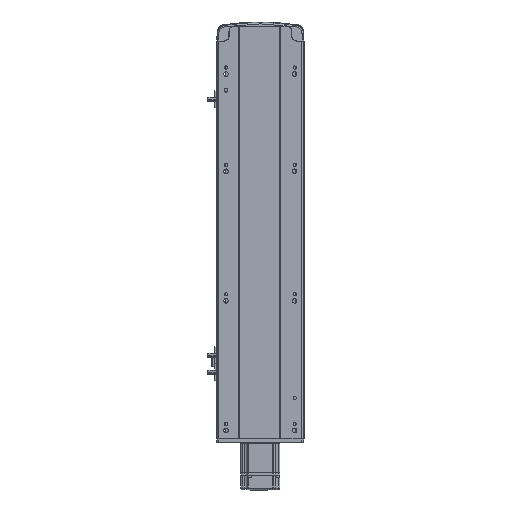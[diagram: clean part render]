
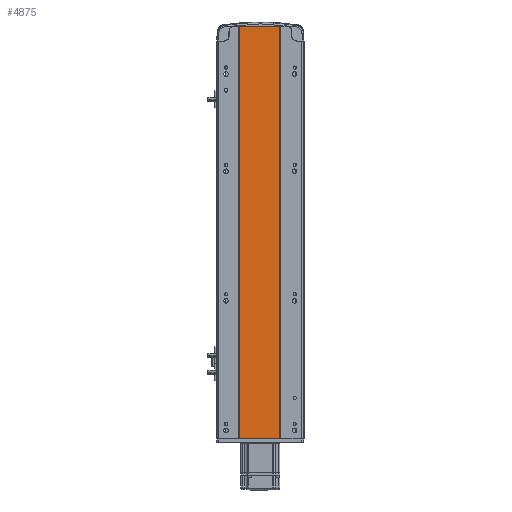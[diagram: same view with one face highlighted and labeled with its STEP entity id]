
A CAD part, front view. The second image highlights one B-rep face of the part: STEP entity #4875.
In plain terms, the highlighted planar face has unit normal (0, -1, 0).
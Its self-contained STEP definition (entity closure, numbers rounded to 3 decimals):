
#4544 = LINE ( 'NONE', #6739, #49934 ) ;
#4875 = ADVANCED_FACE ( 'NONE', ( #34517 ), #54883, .F. ) ;
#5256 = VECTOR ( 'NONE', #31941, 1000. ) ;
#6739 = CARTESIAN_POINT ( 'NONE',  ( -32., 1., 0. ) ) ;
#9071 = CARTESIAN_POINT ( 'NONE',  ( 30., 1., 637. ) ) ;
#11554 = VECTOR ( 'NONE', #28950, 1000. ) ;
#13167 = CARTESIAN_POINT ( 'NONE',  ( 30., 1., 0. ) ) ;
#14793 = VECTOR ( 'NONE', #39116, 1000. ) ;
#14866 = DIRECTION ( 'NONE',  ( -1., 0., 0. ) ) ;
#17121 = EDGE_CURVE ( 'NONE', #41928, #45320, #38390, .T. ) ;
#17731 = AXIS2_PLACEMENT_3D ( 'NONE', #28101, #36987, #14866 ) ;
#23388 = CARTESIAN_POINT ( 'NONE',  ( -32., 1., 637. ) ) ;
#25903 = VERTEX_POINT ( 'NONE', #23388 ) ;
#27172 = ORIENTED_EDGE ( 'NONE', *, *, #29085, .T. ) ;
#27239 = LINE ( 'NONE', #49285, #5256 ) ;
#28101 = CARTESIAN_POINT ( 'NONE',  ( -32., 1., 637. ) ) ;
#28950 = DIRECTION ( 'NONE',  ( 0., 0., -1. ) ) ;
#29085 = EDGE_CURVE ( 'NONE', #25903, #43867, #27239, .T. ) ;
#29250 = ORIENTED_EDGE ( 'NONE', *, *, #29344, .T. ) ;
#29344 = EDGE_CURVE ( 'NONE', #43867, #45320, #4544, .T. ) ;
#31941 = DIRECTION ( 'NONE',  ( 0., 0., -1. ) ) ;
#34517 = FACE_OUTER_BOUND ( 'NONE', #55497, .T. ) ;
#36987 = DIRECTION ( 'NONE',  ( 0., 1., 0. ) ) ;
#37031 = EDGE_CURVE ( 'NONE', #25903, #41928, #51959, .T. ) ;
#38276 = DIRECTION ( 'NONE',  ( 1., 0., 0. ) ) ;
#38390 = LINE ( 'NONE', #45315, #11554 ) ;
#39116 = DIRECTION ( 'NONE',  ( 1., 0., 0. ) ) ;
#41928 = VERTEX_POINT ( 'NONE', #9071 ) ;
#43867 = VERTEX_POINT ( 'NONE', #49412 ) ;
#45315 = CARTESIAN_POINT ( 'NONE',  ( 30., 1., 637. ) ) ;
#45320 = VERTEX_POINT ( 'NONE', #13167 ) ;
#49285 = CARTESIAN_POINT ( 'NONE',  ( -32., 1., 637. ) ) ;
#49412 = CARTESIAN_POINT ( 'NONE',  ( -32., 1., 0. ) ) ;
#49934 = VECTOR ( 'NONE', #38276, 1000. ) ;
#51959 = LINE ( 'NONE', #52223, #14793 ) ;
#52223 = CARTESIAN_POINT ( 'NONE',  ( -32., 1., 637. ) ) ;
#53726 = ORIENTED_EDGE ( 'NONE', *, *, #17121, .F. ) ;
#53923 = ORIENTED_EDGE ( 'NONE', *, *, #37031, .F. ) ;
#54883 = PLANE ( 'NONE',  #17731 ) ;
#55497 = EDGE_LOOP ( 'NONE', ( #29250, #53726, #53923, #27172 ) ) ;
